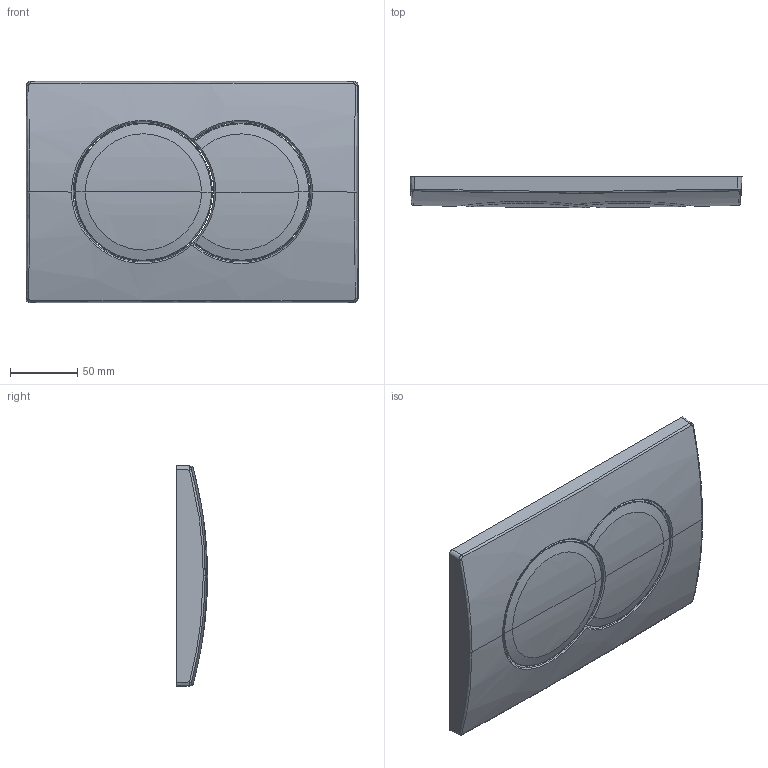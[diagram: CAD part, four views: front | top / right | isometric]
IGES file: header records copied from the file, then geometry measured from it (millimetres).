
Global section: file name: 115107; native system: Autodesk Inventor 2018; preprocessor: unknown; author: JANAN; date: 20211008.092537; units: millimetre
Bounding box: 246 x 22.99 x 164 mm (x, y, z)
Volume: 635047.1 mm3; surface area: 107717.5 mm2
Topology: 3 solids, 3 shells, 62 faces, 188 edges, 131 vertices
Faces by surface type: bspline 62
